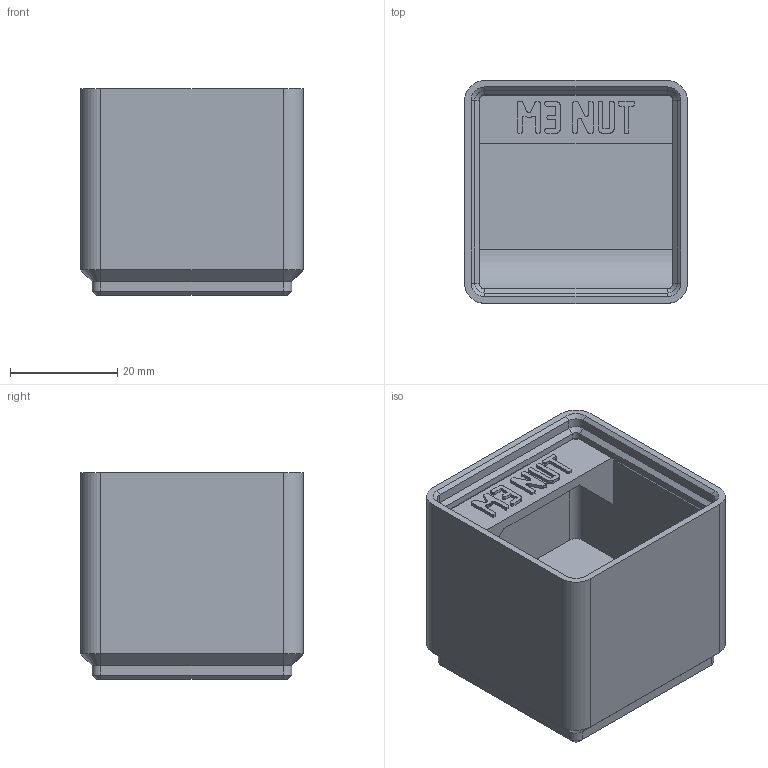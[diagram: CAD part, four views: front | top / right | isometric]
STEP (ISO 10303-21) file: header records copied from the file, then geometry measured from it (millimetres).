
FILE_DESCRIPTION(('Open CASCADE Model'),'2;1');
FILE_NAME('Open CASCADE Shape Model','2026-11-03T10:36:15',('Author'),( 'Open CASCADE'),'Open CASCADE STEP processor 8.0','build123d', 'Unknown');
FILE_SCHEMA(('AUTOMOTIVE_DESIGN { 1 0 10303 214 1 1 1 1 }'));
Length unit declared in the file: millimetre
Products named in the file (1): COMPOUND
Bounding box: 41.5 x 41.5 x 38.55 mm (x, y, z)
Volume: 27574.5 mm3; surface area: 13868.4 mm2
Topology: 1 solids, 1 shells, 544 faces, 1548 edges, 1012 vertices
Faces by surface type: plane 503, cylinder 21, cone 20
Entity records: 36591 total; most frequent: CARTESIAN_POINT 7643, DIRECTION 4653, LINE 3448, VECTOR 3448, ORIENTED_EDGE 3096, PCURVE 3096, DEFINITIONAL_REPRESENTATION 3096, EDGE_CURVE 1548
